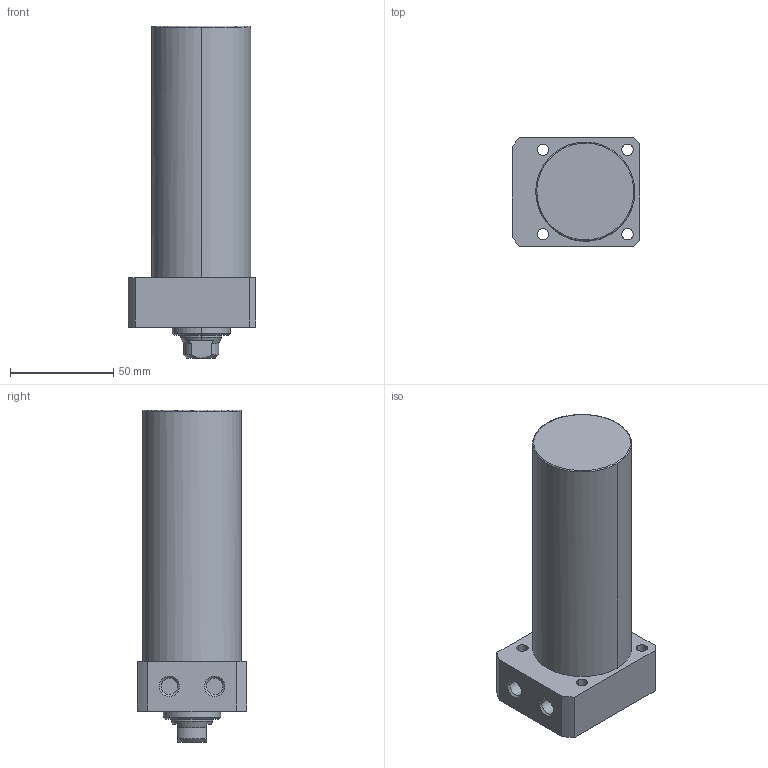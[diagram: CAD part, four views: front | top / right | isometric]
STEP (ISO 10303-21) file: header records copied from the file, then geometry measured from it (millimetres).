
FILE_DESCRIPTION((' '),'2;1');
FILE_NAME( 'TLLR-048CA-095.STEP.stp', '2025-10-24T16:34:30', (' '), ('--- Datakit www.datakit.com---'), ' Datakit CrossCadWare V2024.1 Dec 21 2023', 'Mastercam 2025', ' ');
FILE_SCHEMA(('AUTOMOTIVE_DESIGN { 1 0 10303 214 1 1 1 1 }'));
Length unit declared in the file: millimetre
Products named in the file (1): TLLR-048CA-095
Bounding box: 62 x 53 x 161 mm (x, y, z)
Volume: 299116.1 mm3; surface area: 33760.6 mm2
Topology: 1 solids, 1 shells, 63 faces, 177 edges, 122 vertices
Faces by surface type: cylinder 28, plane 19, cone 14, torus 2
Entity records: 2172 total; most frequent: CARTESIAN_POINT 409, DIRECTION 400, ORIENTED_EDGE 350, EDGE_CURVE 175, AXIS2_PLACEMENT_3D 169, VERTEX_POINT 122, CIRCLE 105, EDGE_LOOP 79
